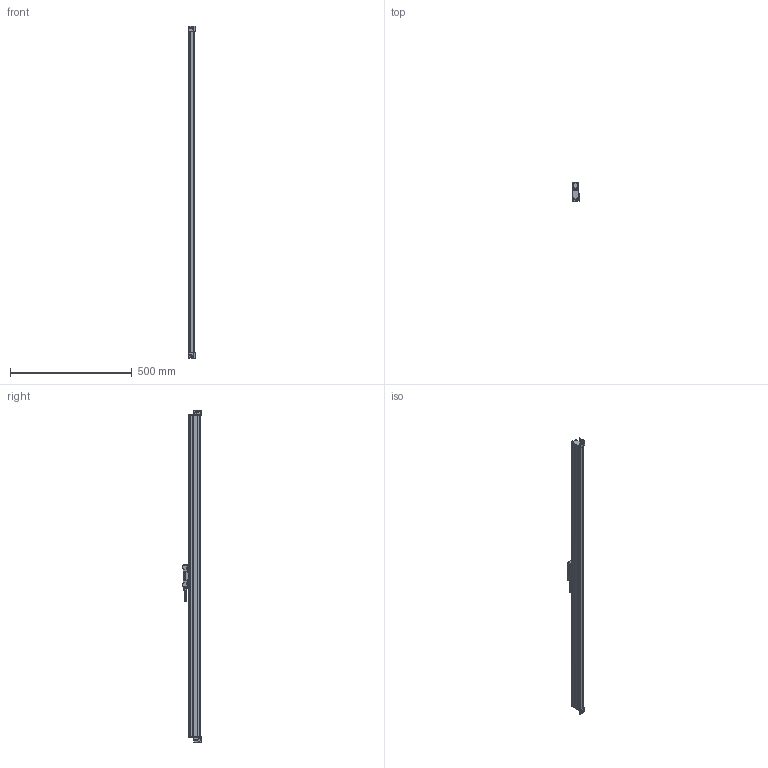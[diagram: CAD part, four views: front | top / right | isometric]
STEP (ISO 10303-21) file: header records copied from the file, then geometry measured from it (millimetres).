
FILE_DESCRIPTION (( 'STEP AP214' ), '1' );
FILE_NAME ('MLC310x1200.STEP', '2021-05-08T11:53:09', ( '' ), ( '' ), 'SwSTEP 2.0', 'SolidWorks 2014', '' );
FILE_SCHEMA (( 'AUTOMOTIVE_DESIGN' ));
Length unit declared in the file: millimetre
Products named in the file (1): MLC310x1200
Bounding box: 27 x 75.15 x 1364 mm (x, y, z)
Surface area: 236195.9 mm2 (no closed solid volume)
Topology: 0 solids, 22 shells, 384 faces, 1307 edges, 936 vertices
Faces by surface type: plane 150, cylinder 138, cone 71, bspline 21, torus 4
Entity records: 27838 total; most frequent: CARTESIAN_POINT 12618, DIRECTION 2259, ORIENTED_EDGE 2004, EDGE_CURVE 1305, VERTEX_POINT 936, AXIS2_PLACEMENT_3D 783, VECTOR 693, LINE 693
